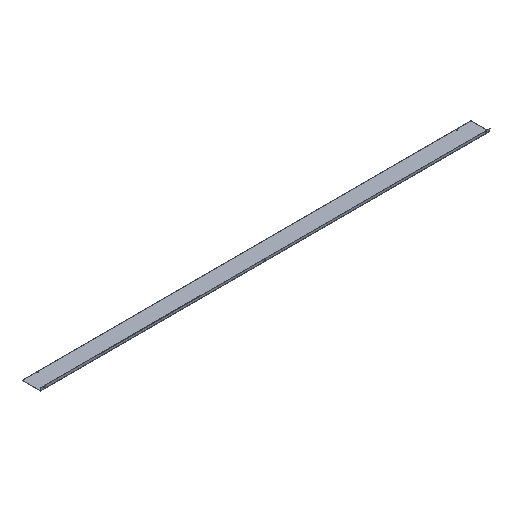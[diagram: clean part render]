
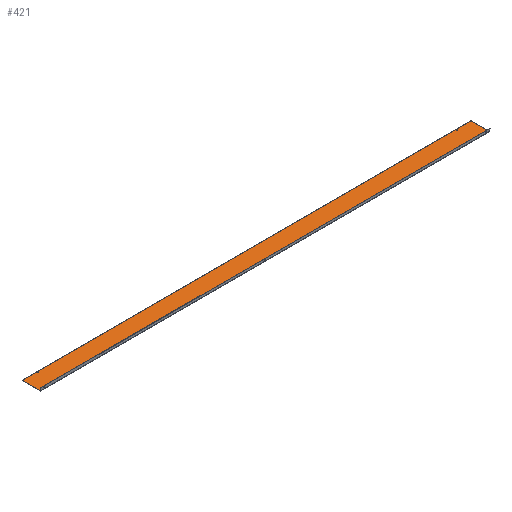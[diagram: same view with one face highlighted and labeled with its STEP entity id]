
A CAD part, isometric view. The second image highlights one B-rep face of the part: STEP entity #421.
In plain terms, the highlighted planar face has unit normal (0, 0, 1).
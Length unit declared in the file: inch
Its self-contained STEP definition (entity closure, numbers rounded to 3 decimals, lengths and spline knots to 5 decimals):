
#31=FACE_BOUND('',#99,.T.);
#32=FACE_BOUND('',#100,.T.);
#44=PLANE('',#530);
#67=FACE_OUTER_BOUND('',#98,.T.);
#98=EDGE_LOOP('',(#380,#381,#382,#383,#384,#385));
#99=EDGE_LOOP('',(#386));
#100=EDGE_LOOP('',(#387));
#110=LINE('',#713,#143);
#128=LINE('',#762,#161);
#132=LINE('',#777,#165);
#133=LINE('',#779,#166);
#143=VECTOR('',#585,0.3937);
#161=VECTOR('',#631,0.3937);
#165=VECTOR('',#655,0.3937);
#166=VECTOR('',#658,0.3937);
#173=CIRCLE('',#496,0.1405);
#175=CIRCLE('',#499,0.1405);
#177=CIRCLE('',#502,0.062);
#184=CIRCLE('',#517,0.062);
#195=VERTEX_POINT('',#688);
#197=VERTEX_POINT('',#694);
#199=VERTEX_POINT('',#700);
#200=VERTEX_POINT('',#701);
#204=VERTEX_POINT('',#711);
#220=VERTEX_POINT('',#756);
#221=VERTEX_POINT('',#760);
#222=VERTEX_POINT('',#770);
#232=EDGE_CURVE('',#195,#195,#173,.T.);
#235=EDGE_CURVE('',#197,#197,#175,.T.);
#238=EDGE_CURVE('',#199,#200,#177,.T.);
#244=EDGE_CURVE('',#204,#199,#110,.T.);
#265=EDGE_CURVE('',#220,#204,#184,.T.);
#268=EDGE_CURVE('',#221,#220,#128,.T.);
#276=EDGE_CURVE('',#221,#222,#132,.T.);
#277=EDGE_CURVE('',#200,#222,#133,.T.);
#380=ORIENTED_EDGE('',*,*,#238,.F.);
#381=ORIENTED_EDGE('',*,*,#244,.F.);
#382=ORIENTED_EDGE('',*,*,#265,.F.);
#383=ORIENTED_EDGE('',*,*,#268,.F.);
#384=ORIENTED_EDGE('',*,*,#276,.T.);
#385=ORIENTED_EDGE('',*,*,#277,.F.);
#386=ORIENTED_EDGE('',*,*,#232,.T.);
#387=ORIENTED_EDGE('',*,*,#235,.T.);
#421=ADVANCED_FACE('',(#67,#31,#32),#44,.T.);
#496=AXIS2_PLACEMENT_3D('',#689,#561,#562);
#499=AXIS2_PLACEMENT_3D('',#695,#568,#569);
#502=AXIS2_PLACEMENT_3D('',#702,#575,#576);
#517=AXIS2_PLACEMENT_3D('',#757,#625,#626);
#530=AXIS2_PLACEMENT_3D('',#780,#659,#660);
#561=DIRECTION('center_axis',(0.,0.,-1.));
#562=DIRECTION('ref_axis',(-1.,0.,0.));
#568=DIRECTION('center_axis',(0.,0.,-1.));
#569=DIRECTION('ref_axis',(-1.,0.,0.));
#575=DIRECTION('center_axis',(0.,0.,-1.));
#576=DIRECTION('ref_axis',(0.707,0.707,0.));
#585=DIRECTION('',(1.,0.,0.));
#625=DIRECTION('center_axis',(0.,0.,-1.));
#626=DIRECTION('ref_axis',(-0.707,0.707,0.));
#631=DIRECTION('',(0.,1.,0.));
#655=DIRECTION('',(1.,0.,0.));
#658=DIRECTION('',(0.,-1.,0.));
#659=DIRECTION('center_axis',(0.,0.,1.));
#660=DIRECTION('ref_axis',(1.,0.,0.));
#688=CARTESIAN_POINT('',(55.8905,2.25,0.053));
#689=CARTESIAN_POINT('Origin',(55.75,2.25,0.053));
#694=CARTESIAN_POINT('',(-55.6095,2.25,0.053));
#695=CARTESIAN_POINT('Origin',(-55.75,2.25,0.053));
#700=CARTESIAN_POINT('',(59.688,2.5,0.053));
#701=CARTESIAN_POINT('',(59.75,2.438,0.053));
#702=CARTESIAN_POINT('Origin',(59.688,2.438,0.053));
#711=CARTESIAN_POINT('',(-59.688,2.5,0.053));
#713=CARTESIAN_POINT('',(59.75,2.5,0.053));
#756=CARTESIAN_POINT('',(-59.75,2.438,0.053));
#757=CARTESIAN_POINT('Origin',(-59.688,2.438,0.053));
#760=CARTESIAN_POINT('',(-59.75,-2.416,0.053));
#762=CARTESIAN_POINT('',(-59.75,2.5,0.053));
#770=CARTESIAN_POINT('',(59.75,-2.416,0.053));
#777=CARTESIAN_POINT('',(29.875,-2.416,0.053));
#779=CARTESIAN_POINT('',(59.75,-2.5,0.053));
#780=CARTESIAN_POINT('Origin',(0.,0.,0.053));
